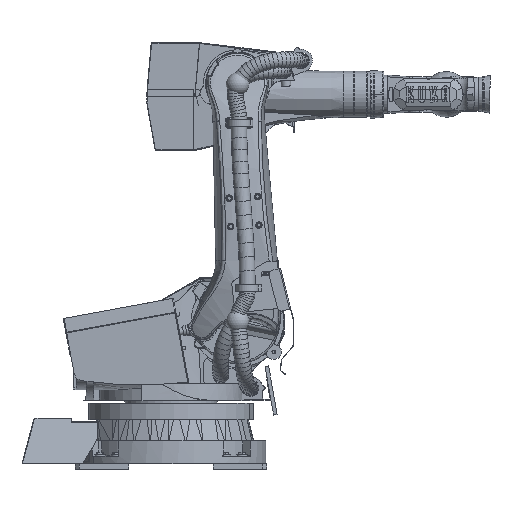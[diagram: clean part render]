
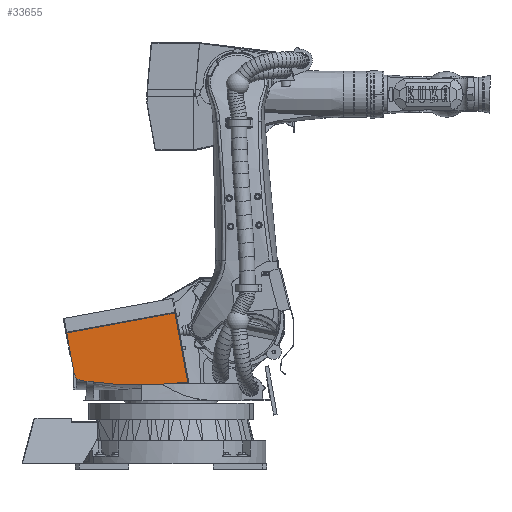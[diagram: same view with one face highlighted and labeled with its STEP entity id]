
A CAD part, front view. The second image highlights one B-rep face of the part: STEP entity #33655.
In plain terms, the highlighted planar face has unit normal (0, -1, 0).
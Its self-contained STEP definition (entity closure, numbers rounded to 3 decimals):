
#1642=B_SPLINE_CURVE_WITH_KNOTS('',3,(#126330,#126331,#126332,#126333,#126334,
#126335,#126336,#126337,#126338,#126339,#126340,#126341),.UNSPECIFIED.,.F.,
 .F.,(4,2,2,2,2,4),(0.,0.25,0.5,0.75,0.875,1.),.UNSPECIFIED.);
#4621=CIRCLE('',#86900,50.);
#33655=ADVANCED_FACE('',(#38930),#36495,.T.);
#36495=PLANE('',#86901);
#38930=FACE_OUTER_BOUND('',#42409,.T.);
#42409=EDGE_LOOP('',(#54950,#54951,#54952,#54953,#54954));
#54950=ORIENTED_EDGE('',*,*,#71634,.T.);
#54951=ORIENTED_EDGE('',*,*,#71640,.T.);
#54952=ORIENTED_EDGE('',*,*,#71641,.T.);
#54953=ORIENTED_EDGE('',*,*,#71642,.T.);
#54954=ORIENTED_EDGE('',*,*,#71643,.F.);
#64350=VERTEX_POINT('',#126304);
#64351=VERTEX_POINT('',#126306);
#64355=VERTEX_POINT('',#126329);
#64356=VERTEX_POINT('',#126342);
#64357=VERTEX_POINT('',#126344);
#71634=EDGE_CURVE('',#64351,#64350,#77990,.T.);
#71640=EDGE_CURVE('',#64350,#64355,#4621,.T.);
#71641=EDGE_CURVE('',#64355,#64356,#1642,.T.);
#71642=EDGE_CURVE('',#64356,#64357,#77994,.T.);
#71643=EDGE_CURVE('',#64351,#64357,#77995,.T.);
#77990=LINE('',#126305,#82429);
#77994=LINE('',#126343,#82433);
#77995=LINE('',#126345,#82434);
#82429=VECTOR('',#99307,1.);
#82433=VECTOR('',#99319,1.);
#82434=VECTOR('',#99320,1.);
#86900=AXIS2_PLACEMENT_3D('',#126328,#99317,#99318);
#86901=AXIS2_PLACEMENT_3D('',#126346,#99321,#99322);
#99307=DIRECTION('',(0.181,0.,-0.983));
#99317=DIRECTION('',(0.,-1.,0.));
#99318=DIRECTION('',(-0.181,0.,0.983));
#99319=DIRECTION('',(-0.181,0.,0.983));
#99320=DIRECTION('',(0.983,0.,0.181));
#99321=DIRECTION('',(0.,-1.,0.));
#99322=DIRECTION('',(-0.181,0.,0.983));
#126304=CARTESIAN_POINT('',(-510.308,-497.672,476.922));
#126305=CARTESIAN_POINT('',(-549.297,-497.672,688.317));
#126306=CARTESIAN_POINT('',(-549.297,-497.672,688.317));
#126328=CARTESIAN_POINT('',(-461.137,-497.672,485.99));
#126329=CARTESIAN_POINT('',(-468.936,-497.672,436.602));
#126330=CARTESIAN_POINT('',(-468.936,-497.672,436.602));
#126331=CARTESIAN_POINT('',(-422.922,-497.672,429.336));
#126332=CARTESIAN_POINT('',(-376.66,-497.672,424.106));
#126333=CARTESIAN_POINT('',(-283.746,-497.672,416.85));
#126334=CARTESIAN_POINT('',(-237.175,-497.672,414.839));
#126335=CARTESIAN_POINT('',(-144.038,-497.672,413.691));
#126336=CARTESIAN_POINT('',(-97.394,-497.672,414.546));
#126337=CARTESIAN_POINT('',(-27.631,-497.672,418.112));
#126338=CARTESIAN_POINT('',(-4.405,-497.672,419.685));
#126339=CARTESIAN_POINT('',(41.981,-497.672,423.737));
#126340=CARTESIAN_POINT('',(65.141,-497.672,426.206));
#126341=CARTESIAN_POINT('',(88.255,-497.672,429.316));
#126342=CARTESIAN_POINT('',(88.255,-497.672,429.316));
#126343=CARTESIAN_POINT('',(98.169,-497.672,375.565));
#126344=CARTESIAN_POINT('',(21.083,-497.672,793.516));
#126345=CARTESIAN_POINT('',(-549.297,-497.672,688.317));
#126346=CARTESIAN_POINT('',(-549.297,-497.672,688.317));
